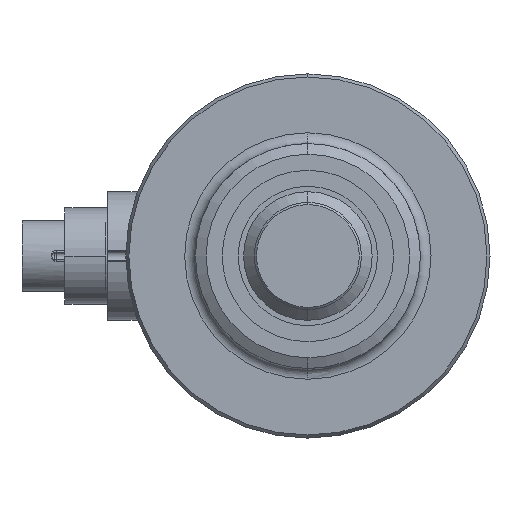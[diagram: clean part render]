
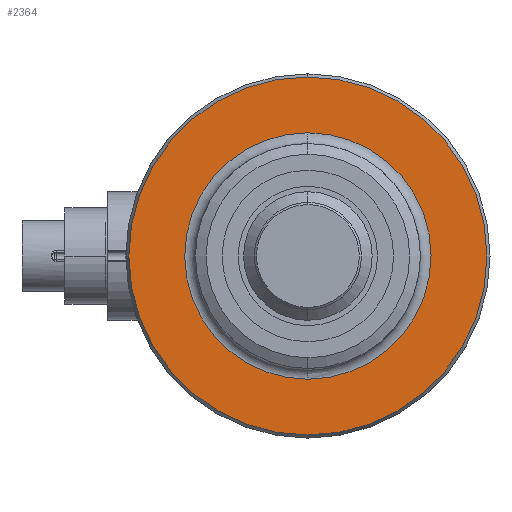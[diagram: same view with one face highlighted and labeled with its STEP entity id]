
A CAD part, left-side view. The second image highlights one B-rep face of the part: STEP entity #2364.
In plain terms, the highlighted planar face has unit normal (-1, 0, 0).
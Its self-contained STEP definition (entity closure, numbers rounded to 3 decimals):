
#279=CARTESIAN_POINT('',(-4.,0.,
0.));
#280=DIRECTION('',(1.,0.,0.));
#281=DIRECTION('',(0.,0.,-1.));
#282=AXIS2_PLACEMENT_3D('',#279,#280,#281);
#284=CARTESIAN_POINT('',(-4.,0.,
0.));
#285=DIRECTION('',(1.,0.,0.));
#286=DIRECTION('',(0.,0.,1.));
#287=AXIS2_PLACEMENT_3D('',#284,#285,#286);
#289=CARTESIAN_POINT('',(-4.,0.,0.));
#290=DIRECTION('',(-1.,0.,0.));
#291=DIRECTION('',(0.,0.,1.));
#292=AXIS2_PLACEMENT_3D('',#289,#290,#291);
#294=CARTESIAN_POINT('',(-4.,0.,0.));
#295=DIRECTION('',(-1.,0.,0.));
#296=DIRECTION('',(0.,0.01,1.));
#297=AXIS2_PLACEMENT_3D('',#294,#295,#296);
#299=CARTESIAN_POINT('',(-4.,0.,0.));
#300=DIRECTION('',(-1.,0.,0.));
#301=DIRECTION('',(0.,0.,-1.));
#302=AXIS2_PLACEMENT_3D('',#299,#300,#301);
#304=CARTESIAN_POINT('',(-4.,0.,0.));
#305=DIRECTION('',(-1.,0.,0.));
#306=DIRECTION('',(0.,-0.01,-1.));
#307=AXIS2_PLACEMENT_3D('',#304,#305,#306);
#1792=CARTESIAN_POINT('',(-4.,0.,
16.711));
#1793=CARTESIAN_POINT('',(-4.,0.,
-16.711));
#1794=VERTEX_POINT('',#1792);
#1795=VERTEX_POINT('',#1793);
#1796=CARTESIAN_POINT('',(-4.,0.116,11.499));
#1797=CARTESIAN_POINT('',(-4.,0.,-11.5));
#1798=VERTEX_POINT('',#1796);
#1799=VERTEX_POINT('',#1797);
#1800=CARTESIAN_POINT('',(-4.,0.,11.5));
#1801=VERTEX_POINT('',#1800);
#1802=CARTESIAN_POINT('',(-4.,-0.116,-11.499));
#1803=VERTEX_POINT('',#1802);
#2347=CARTESIAN_POINT('',(-4.,0.,0.));
#2348=DIRECTION('',(1.,0.,0.));
#2349=DIRECTION('',(0.,0.,1.));
#2350=AXIS2_PLACEMENT_3D('',#2347,#2348,#2349);
#2351=PLANE('',#2350);
#2353=ORIENTED_EDGE('',*,*,#2352,.T.);
#2355=ORIENTED_EDGE('',*,*,#2354,.T.);
#2356=EDGE_LOOP('',(#2353,#2355));
#2357=FACE_OUTER_BOUND('',#2356,.F.);
#2358=ORIENTED_EDGE('',*,*,#2328,.T.);
#2359=ORIENTED_EDGE('',*,*,#2326,.T.);
#2360=ORIENTED_EDGE('',*,*,#2309,.T.);
#2361=ORIENTED_EDGE('',*,*,#2307,.T.);
#2362=EDGE_LOOP('',(#2358,#2359,#2360,#2361));
#2363=FACE_BOUND('',#2362,.F.);
#2364=ADVANCED_FACE('',(#2357,#2363),#2351,.F.);
#283=CIRCLE('',#282,16.711);
#288=CIRCLE('',#287,16.711);
#293=CIRCLE('',#292,11.5);
#298=CIRCLE('',#297,11.5);
#303=CIRCLE('',#302,11.5);
#308=CIRCLE('',#307,11.5);
#2307=EDGE_CURVE('',#1803,#1801,#308,.T.);
#2309=EDGE_CURVE('',#1799,#1803,#303,.T.);
#2326=EDGE_CURVE('',#1798,#1799,#298,.T.);
#2328=EDGE_CURVE('',#1801,#1798,#293,.T.);
#2352=EDGE_CURVE('',#1795,#1794,#283,.T.);
#2354=EDGE_CURVE('',#1794,#1795,#288,.T.);
